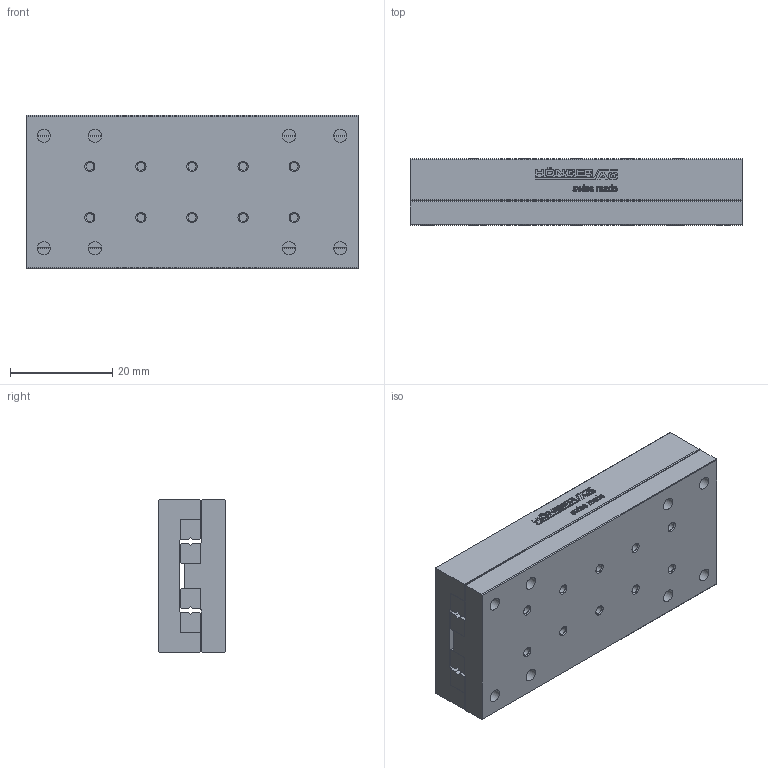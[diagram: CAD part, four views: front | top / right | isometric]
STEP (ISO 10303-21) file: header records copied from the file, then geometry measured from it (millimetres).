
FILE_DESCRIPTION(/* description */ ('STEP AP214'),/* implementation_level */ '2;1');
FILE_NAME(/* name */ 'NKL 1-65(0)',/* time_stamp */ '2025-04-23T07:56:30+02:00',/* author */ ('License CC BY-ND 4.0'),/* organization */ ('CADENAS'),/* preprocessor_version */ 'ST-DEVELOPER v19.3',/* originating_system */ 'PARTsolutions',/* authorisation */ ' ');
FILE_SCHEMA (('AUTOMOTIVE_DESIGN {1 0 10303 214 3 1 1}'));
Length unit declared in the file: millimetre
Products named in the file (3): NKL 1-65(0); NKL 1-65_1; NKL 1-65_2
Assembly tree (2 placements, depth 2):
  NKL 1-65(0)
    NKL 1-65_1
    NKL 1-65_2
Bounding box: 65 x 13 x 30 mm (x, y, z)
Volume: 23924.7 mm3; surface area: 14159.8 mm2
Topology: 2 solids, 2 shells, 667 faces, 1786 edges, 1172 vertices
Faces by surface type: cylinder 328, plane 299, cone 40
Full cylindrical faces by diameter (mm): 1.567 x20, 2.55 x8, 4.3 x8
Entity records: 20755 total; most frequent: DIRECTION 3746, CARTESIAN_POINT 3552, ORIENTED_EDGE 3420, EDGE_CURVE 1710, AXIS2_PLACEMENT_3D 1366, VERTEX_POINT 1172, LINE 1014, VECTOR 1014
